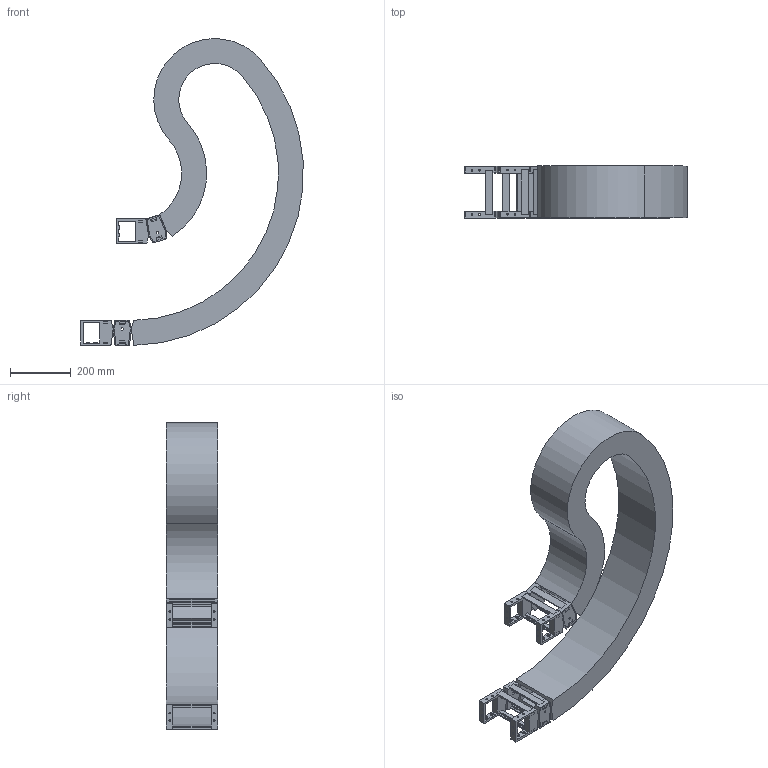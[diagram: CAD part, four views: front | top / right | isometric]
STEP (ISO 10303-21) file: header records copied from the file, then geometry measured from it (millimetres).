
FILE_DESCRIPTION( ( 'STEP AP214' ), '1' );
FILE_NAME( 'p:/temp/worker_40/temp/exporttempdir_4752_191_xHTwW/format_1/RV060CRA170174.5165120400485-001253025.05950.stp', '2021-07-27T05:41:18', ( 'License CC BY-ND 4.0' ), ( 'CADENAS' ), ' ', 'PARTsolutions', ' ' );
FILE_SCHEMA( ( 'AUTOMOTIVE_DESIGN { 1 0 10303 214 1 1 1 1 }' ) );
Length unit declared in the file: millimetre
Products named in the file (4): RV060CRA170174.5165120400485-001253025.05950; _RV060CRA170178165120400485-001251845.047-Chain; _RV060CR-SU-125-60; _RV060CR_FB-170
Assembly tree (5 placements, depth 2):
  RV060CRA170174.5165120400485-001253025.05950
    _RV060CRA170178165120400485-001251845.047-Chain
    _RV060CR-SU-125-60  x2
    _RV060CR_FB-170  x2
Bounding box: 729.03 x 170 x 1006.74 mm (x, y, z)
Volume: 13688808.7 mm3; surface area: 2032969.9 mm2
Topology: 5 solids, 5 shells, 508 faces, 1476 edges, 988 vertices
Faces by surface type: plane 400, cylinder 108
Full cylindrical faces by diameter (mm): 6 x24
Entity records: 10820 total; most frequent: CARTESIAN_POINT 1528, ORIENTED_EDGE 1500, DIRECTION 1410, EDGE_CURVE 750, LINE 630, VECTOR 630, VERTEX_POINT 508, AXIS2_PLACEMENT_3D 390
